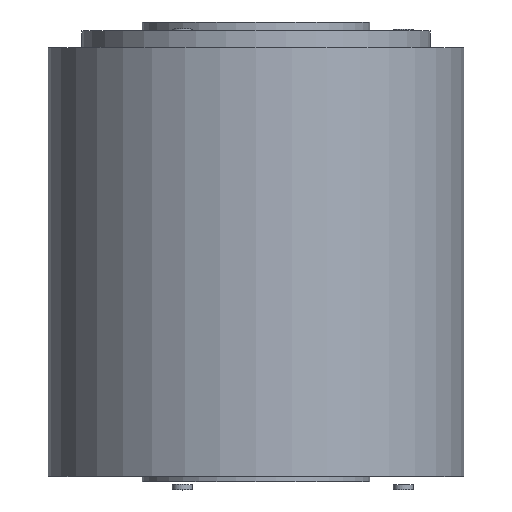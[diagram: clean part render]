
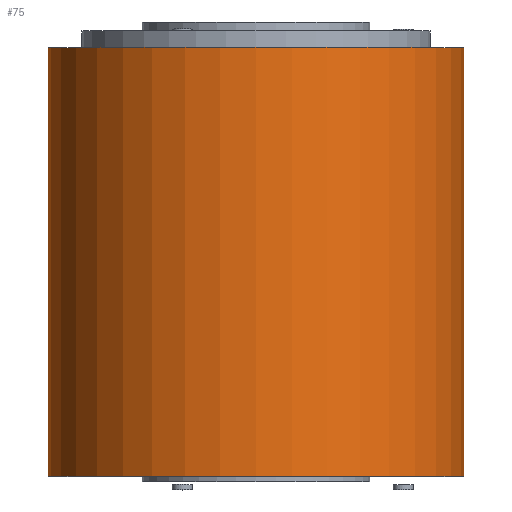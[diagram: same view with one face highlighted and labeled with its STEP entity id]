
A CAD part, top view. The second image highlights one B-rep face of the part: STEP entity #75.
In plain terms, the highlighted cylindrical face has radius 31 mm (diameter 62 mm), a full revolution.
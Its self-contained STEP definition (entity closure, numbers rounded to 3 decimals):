
#75 = ADVANCED_FACE('',(#76),#103,.T.);
#76 = FACE_BOUND('',#77,.T.);
#77 = EDGE_LOOP('',(#78,#87,#95,#102));
#78 = ORIENTED_EDGE('',*,*,#79,.F.);
#79 = EDGE_CURVE('',#80,#80,#82,.T.);
#80 = VERTEX_POINT('',#81);
#81 = CARTESIAN_POINT('',(0.,32.,31.));
#82 = CIRCLE('',#83,31.);
#83 = AXIS2_PLACEMENT_3D('',#84,#85,#86);
#84 = CARTESIAN_POINT('',(0.,32.,0.));
#85 = DIRECTION('',(0.,1.,0.));
#86 = DIRECTION('',(0.,-0.,1.));
#87 = ORIENTED_EDGE('',*,*,#88,.F.);
#88 = EDGE_CURVE('',#89,#80,#91,.T.);
#89 = VERTEX_POINT('',#90);
#90 = CARTESIAN_POINT('',(0.,-32.,31.));
#91 = LINE('',#92,#93);
#92 = CARTESIAN_POINT('',(0.,-32.,31.));
#93 = VECTOR('',#94,1.);
#94 = DIRECTION('',(0.,1.,0.));
#95 = ORIENTED_EDGE('',*,*,#96,.T.);
#96 = EDGE_CURVE('',#89,#89,#97,.T.);
#97 = CIRCLE('',#98,31.);
#98 = AXIS2_PLACEMENT_3D('',#99,#100,#101);
#99 = CARTESIAN_POINT('',(0.,-32.,0.));
#100 = DIRECTION('',(0.,1.,0.));
#101 = DIRECTION('',(0.,-0.,1.));
#102 = ORIENTED_EDGE('',*,*,#88,.T.);
#103 = CYLINDRICAL_SURFACE('',#104,31.);
#104 = AXIS2_PLACEMENT_3D('',#105,#106,#107);
#105 = CARTESIAN_POINT('',(0.,-32.,0.));
#106 = DIRECTION('',(0.,1.,0.));
#107 = DIRECTION('',(0.,-0.,1.));
